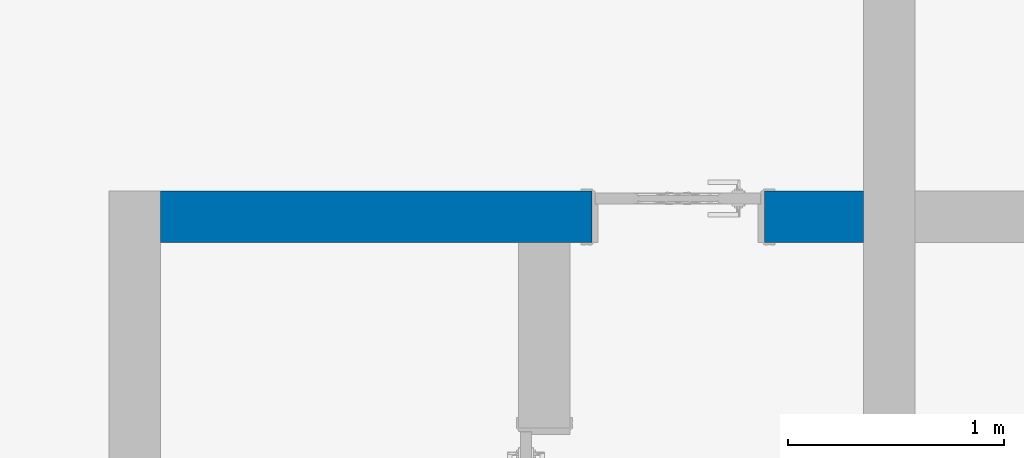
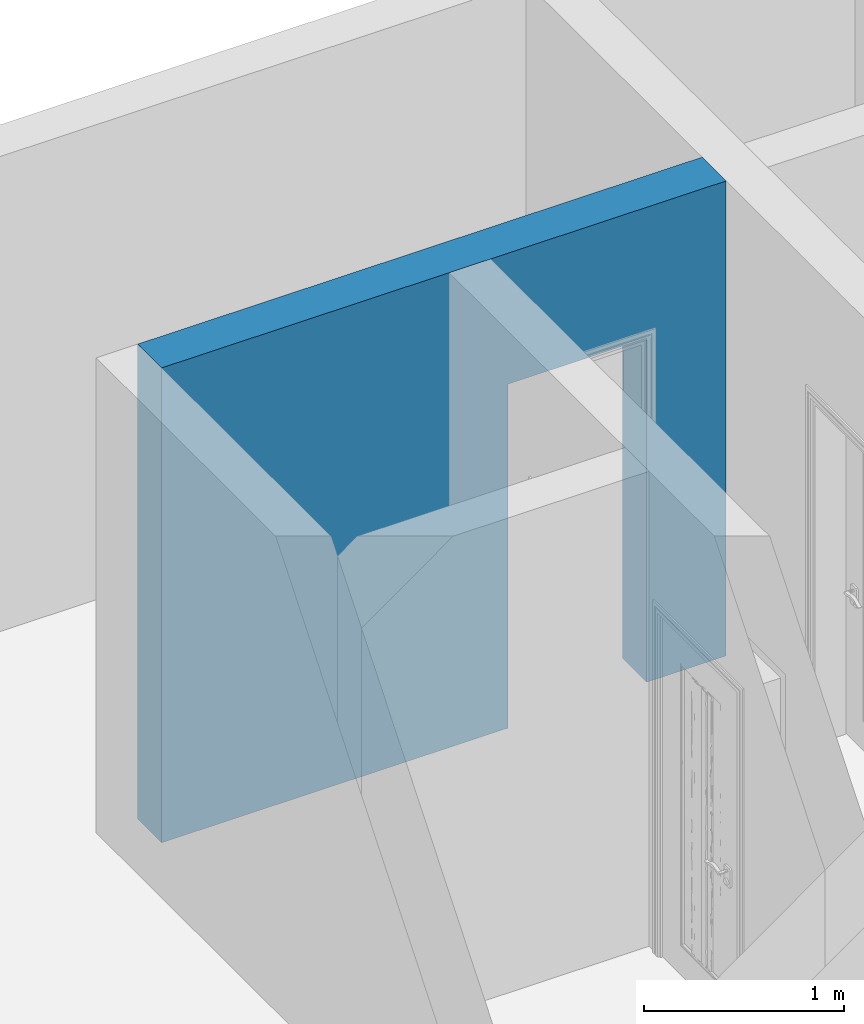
# One storey, part 9 of 16: 1 wall, 1 opening.
"""IFC2X3 building model written with IfcOpenShell, lengths in millimetres."""

from ifc_helpers import new_model, entity, si_unit, converted_unit, derived_unit, direction, frame, frame_2d, origin, place, context, subcontext, project, spatial, polyline, rectangle, extrude, clip, bounded_halfspace, material, layer, layer_set, layer_usage, type_object, element, save


model = new_model("IFC2X3")

# Units and contexts
model_context = context("Model", 3, precision=0.01, world=origin(), true_north=direction((6.12303176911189e-17, 1.0)))
body_context = subcontext(model_context, "Body", "Model", "MODEL_VIEW")
ifc_project = project(units=[si_unit("LENGTHUNIT", "METRE", prefix="MILLI"), si_unit("AREAUNIT", "SQUARE_METRE"), si_unit("VOLUMEUNIT", "CUBIC_METRE"), converted_unit("PLANEANGLEUNIT", "DEGREE", entity("IfcRatioMeasure", 0.0174532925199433), si_unit("PLANEANGLEUNIT", "RADIAN"), dimensions=[0, 0, 0, 0, 0, 0, 0]), si_unit("MASSUNIT", "GRAM", prefix="KILO"), derived_unit("MASSDENSITYUNIT", [(si_unit("MASSUNIT", "GRAM", prefix="KILO"), 1), (si_unit("LENGTHUNIT", "METRE"), -3)]), si_unit("TIMEUNIT", "SECOND"), si_unit("FREQUENCYUNIT", "HERTZ"), si_unit("THERMODYNAMICTEMPERATUREUNIT", "DEGREE_CELSIUS"), derived_unit("THERMALTRANSMITTANCEUNIT", [(si_unit("MASSUNIT", "GRAM", prefix="KILO"), 1), (si_unit("THERMODYNAMICTEMPERATUREUNIT", "KELVIN"), -1), (si_unit("TIMEUNIT", "SECOND"), -3)]), derived_unit("VOLUMETRICFLOWRATEUNIT", [(si_unit("LENGTHUNIT", "METRE"), 3), (si_unit("TIMEUNIT", "SECOND"), -1)]), si_unit("ELECTRICCURRENTUNIT", "AMPERE"), si_unit("ELECTRICVOLTAGEUNIT", "VOLT"), si_unit("POWERUNIT", "WATT"), si_unit("FORCEUNIT", "NEWTON", prefix="KILO"), si_unit("ILLUMINANCEUNIT", "LUX"), si_unit("LUMINOUSFLUXUNIT", "LUMEN"), si_unit("LUMINOUSINTENSITYUNIT", "CANDELA"), derived_unit("USERDEFINED", [(si_unit("MASSUNIT", "GRAM", prefix="KILO"), -1), (si_unit("LENGTHUNIT", "METRE"), -2), (si_unit("TIMEUNIT", "SECOND"), 3), (si_unit("LUMINOUSFLUXUNIT", "LUMEN"), 1)]), derived_unit("LINEARVELOCITYUNIT", [(si_unit("LENGTHUNIT", "METRE"), 1), (si_unit("TIMEUNIT", "SECOND"), -1)]), si_unit("PRESSUREUNIT", "PASCAL"), derived_unit("USERDEFINED", [(si_unit("LENGTHUNIT", "METRE"), -2), (si_unit("MASSUNIT", "GRAM", prefix="KILO"), 1), (si_unit("TIMEUNIT", "SECOND"), -2)])], contexts=[model_context])

# Site, building, storey
site_placement = place(None, origin())
site = spatial("IfcSite", under=ifc_project, at=site_placement, Name="表面", CompositionType="ELEMENT")
building_placement = place(site_placement, origin())
building = spatial("IfcBuilding", under=site, at=building_placement, CompositionType="ELEMENT")
storey_placement = place(building_placement, frame((0.0, 0.0, 3000.0)))
storey = spatial("IfcBuildingStorey", under=building, at=storey_placement, Name="2F", CompositionType="ELEMENT", Elevation=3000.00000000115)

# Wall, opening
ifc_material_1 = material(Name="白色涂料")
ifc_layer_1 = layer(ifc_material_1, 10.0)
ifc_material_2 = material(Name="默认墙")
ifc_layer_2 = layer(ifc_material_2, 220.0)
ifc_layer_3 = layer(ifc_material_1, 10.0)
ifc_layer_set = layer_set([ifc_layer_1, ifc_layer_2, ifc_layer_3], Name="基本墙:粉刷墙240")
ifc_layer_usage = layer_usage(ifc_layer_set, "AXIS2", "NEGATIVE", 120.0)
wall_type = type_object("IfcWallType", Name="基本墙:粉刷墙240", PredefinedType="STANDARD", material=ifc_layer_set)
wall_placement = place(storey_placement, frame((-11910.2499126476, 1683.13157334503, 0.0)))
wall = element("IfcWallStandardCase", 1, at=wall_placement, inside=storey, type_object=wall_type, material=ifc_layer_usage, Name="基本墙:粉刷墙240", ObjectType="基本墙:粉刷墙240", context=body_context, shape_type="Clipping", body=[
    clip(extrude(rectangle(XDim=3260.00000000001, YDim=240.0, at=frame_2d((1630.00000000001, 2.8421709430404e-14), x_axis=(-1.0, 0.0))), origin(), (0.0, 0.0, 1.0), 2900.0), bounded_halfspace(frame((0.0, -120.0, 2900.0), z_axis=(0.0, 0.0, -1.0), x_axis=(0.0, -1.0, 0.0)), True, frame((0.0, -120.0, 2900.0)), polyline([(0.0, 0.0), (1660.0, 0.0), (1900.0, 0.0), (3260.0, 0.0), (3260.0, 240.0), (0.0, 240.0), (0.0, 0.0)]))),
])
opening_placement = place(wall_placement, frame((2000.0, -120.0, 1.15433635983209e-09)))
element("IfcOpeningElement", 2, at=opening_placement, cuts=wall, Name="装饰木门:M0821:1", ObjectType="Opening", context=body_context, shape_type="SweptSolid", body=[
    extrude(rectangle(XDim=2099.99999999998, YDim=800.0, at=frame_2d((1049.99999999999, 400.0), x_axis=(1.0, 0.0))), frame((0.0, 0.0, 0.0), z_axis=(0.0, 1.0, 0.0), x_axis=(0.0, 0.0, 1.0)), (0.0, 0.0, 1.0), 240.0),
])

save(model, "model.ifc")
